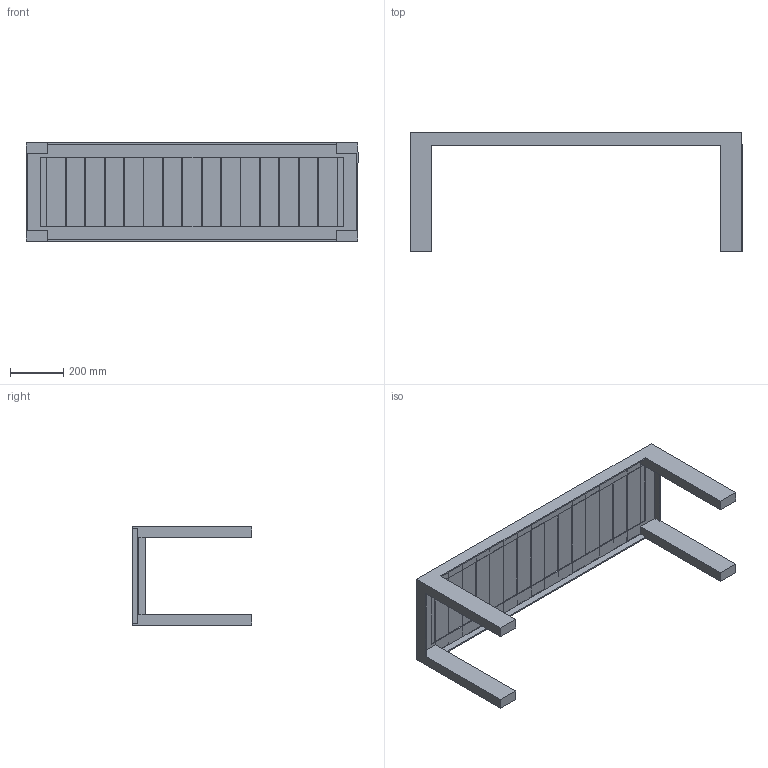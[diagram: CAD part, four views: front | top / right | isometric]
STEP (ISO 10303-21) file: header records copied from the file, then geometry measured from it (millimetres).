
FILE_DESCRIPTION(/* description */ (''),/* implementation_level */ '2;1');
FILE_NAME(/* name */ 'C:\INVENTOR\Workspace\# ARKITEKT FILER\Garden Dinner Bech\Garden Dinner Bench125.stp',/* time_stamp */ '2020-06-22T14:33:14+02:00',/* author */ ('Röshults'),/* organization */ (''),/* preprocessor_version */ 'ST-DEVELOPER v17.2',/* originating_system */ 'Autodesk Inventor 2019',/* authorisation */ '');
FILE_SCHEMA (('AUTOMOTIVE_DESIGN { 1 0 10303 214 3 1 1 }'));
Length unit declared in the file: millimetre
Products named in the file (1): Garden Dinner Bench125
Bounding box: 1250 x 450 x 370 mm (x, y, z)
Volume: 15544440 mm3; surface area: 1909004 mm2
Topology: 1 solids, 1 shells, 137 faces, 428 edges, 264 vertices
Faces by surface type: plane 137
Entity records: 4784 total; most frequent: ORIENTED_EDGE 856, CARTESIAN_POINT 830, DIRECTION 704, LINE 428, VECTOR 428, EDGE_CURVE 428, VERTEX_POINT 264, EDGE_LOOP 140
